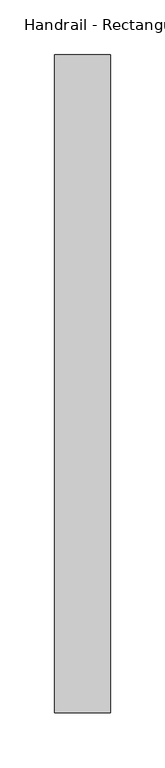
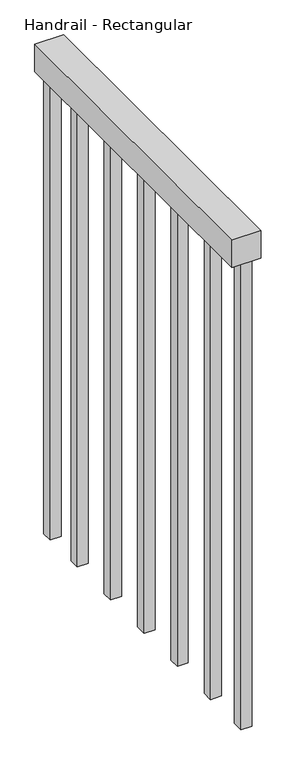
"""IFC4 building model written with IfcOpenShell, lengths in millimetres: railing geometry, Handrail - Rectangular."""

from ifc_helpers import new_model, si_unit, frame, origin, place, context, project, spatial, polyline, outline, extrude, source, transform, mapped, element, save


def handrail_rectangular_6fb7977d(model_context):
    return source(origin(), model_context, "Body", "SweptSolid", [
        extrude(outline(polyline([(-11215.6909741, 9013.6793907), (-11266.4909741, 9013.6793907), (-11266.4909741, 9613.6793907), (-11215.6909741, 9613.6793907), (-11215.6909741, 9013.6793907)])), frame((0.0, 0.0, 3863.6), z_axis=(0.0, 0.0, 1.0), x_axis=(1.0, 0.0, 0.0)), (0.0, 0.0, 1.0), 50.8),
        extrude(outline(polyline([(-11231.5659741, 9512.1543907), (-11250.6159741, 9512.1543907), (-11250.6159741, 9531.2043907), (-11231.5659741, 9531.2043907), (-11231.5659741, 9512.1543907)])), frame((0.0, 0.0, 3000.0), z_axis=(0.0, 0.0, 1.0), x_axis=(1.0, 0.0, 0.0)), (0.0, 0.0, 1.0), 863.6),
        extrude(outline(polyline([(-11231.5659741, 9410.5543907), (-11250.6159741, 9410.5543907), (-11250.6159741, 9429.6043907), (-11231.5659741, 9429.6043907), (-11231.5659741, 9410.5543907)])), frame((0.0, 0.0, 3000.0), z_axis=(0.0, 0.0, 1.0), x_axis=(1.0, 0.0, 0.0)), (0.0, 0.0, 1.0), 863.6),
        extrude(outline(polyline([(-11231.5659741, 9308.9543907), (-11250.6159741, 9308.9543907), (-11250.6159741, 9328.0043907), (-11231.5659741, 9328.0043907), (-11231.5659741, 9308.9543907)])), frame((0.0, 0.0, 3000.0), z_axis=(0.0, 0.0, 1.0), x_axis=(1.0, 0.0, 0.0)), (0.0, 0.0, 1.0), 863.6),
        extrude(outline(polyline([(-11231.5659741, 9207.3543907), (-11250.6159741, 9207.3543907), (-11250.6159741, 9226.4043907), (-11231.5659741, 9226.4043907), (-11231.5659741, 9207.3543907)])), frame((0.0, 0.0, 3000.0), z_axis=(0.0, 0.0, 1.0), x_axis=(1.0, 0.0, 0.0)), (0.0, 0.0, 1.0), 863.6),
        extrude(outline(polyline([(-11231.5659741, 9105.7543907), (-11250.6159741, 9105.7543907), (-11250.6159741, 9124.8043907), (-11231.5659741, 9124.8043907), (-11231.5659741, 9105.7543907)])), frame((0.0, 0.0, 3000.0), z_axis=(0.0, 0.0, 1.0), x_axis=(1.0, 0.0, 0.0)), (0.0, 0.0, 1.0), 863.6),
        extrude(outline(polyline([(-11231.5659741, 9594.6293907), (-11250.6159741, 9594.6293907), (-11250.6159741, 9613.6793907), (-11231.5659741, 9613.6793907), (-11231.5659741, 9594.6293907)])), frame((0.0, 0.0, 3000.0), z_axis=(0.0, 0.0, 1.0), x_axis=(1.0, 0.0, 0.0)), (0.0, 0.0, 1.0), 863.6),
        extrude(outline(polyline([(-11231.5659741, 9013.6793907), (-11250.6159741, 9013.6793907), (-11250.6159741, 9032.7293907), (-11231.5659741, 9032.7293907), (-11231.5659741, 9013.6793907)])), frame((0.0, 0.0, 3000.0), z_axis=(0.0, 0.0, 1.0), x_axis=(1.0, 0.0, 0.0)), (0.0, 0.0, 1.0), 863.6),
    ])


if __name__ == "__main__":
    model = new_model("IFC4")
    model_context = context("Model", 3, world=origin())
    ifc_project = project(units=[si_unit("LENGTHUNIT", "METRE", prefix="MILLI")], contexts=[model_context])
    site = spatial("IfcSite", under=ifc_project)
    building = spatial("IfcBuilding", under=site)
    placement = place(None, origin())
    handrail_rectangular_shape = handrail_rectangular_6fb7977d(model_context)
    element("IfcRailing", 1, ObjectType="Handrail - Rectangular", at=placement, inside=building, context=model_context, shape_type="MappedRepresentation", body=[
        mapped(handrail_rectangular_shape, transform((0.0, 0.0, 0.0), x_axis=(1.0, 0.0, 0.0), y_axis=(0.0, 1.0, 0.0), z_axis=(0.0, 0.0, 1.0))),
    ])
    save(model, "model.ifc")
